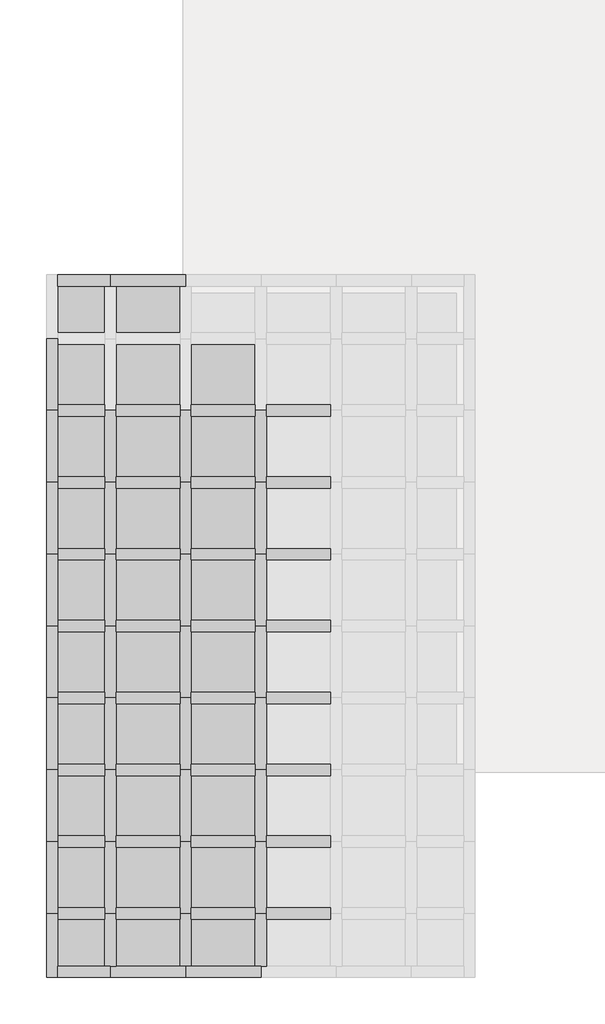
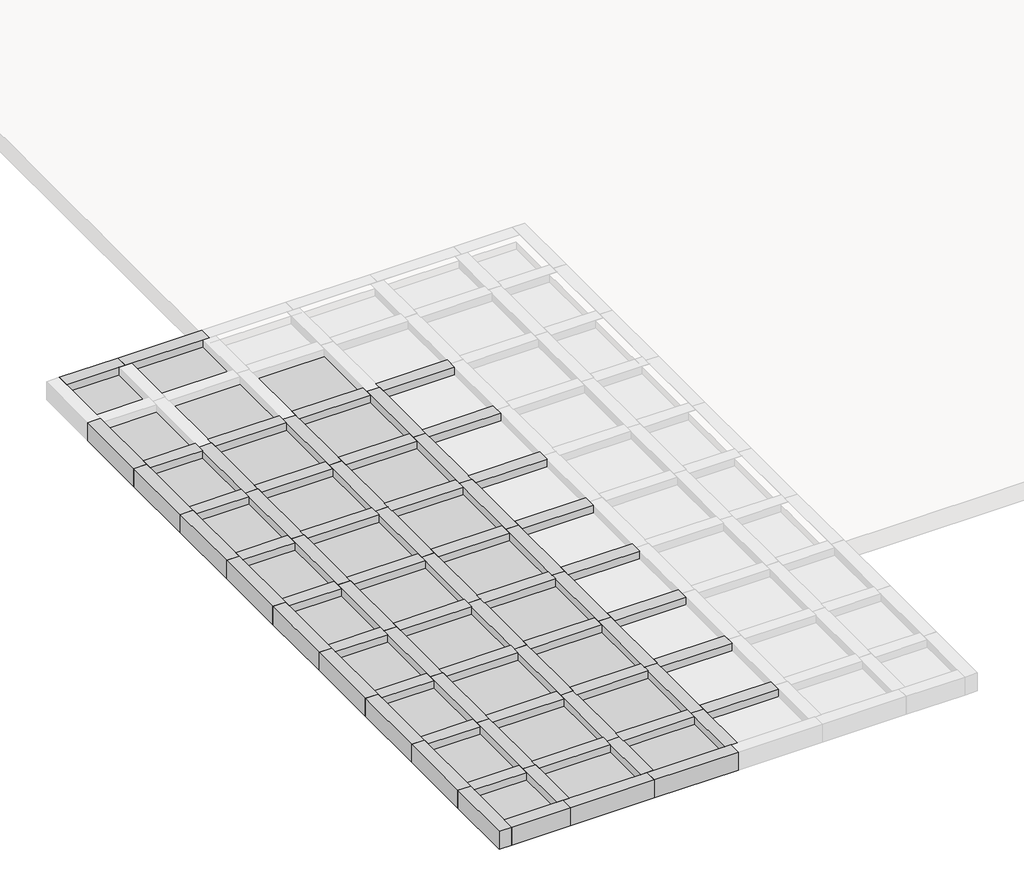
# One storey, part 1 of 2: 70 members, 29 plates.
"""IFC4 building model written with IfcOpenShell, lengths in millimetres."""

from ifc_helpers import new_model, si_unit, origin, place, context, project, spatial, transform, mapped, element, save
from components import member_100x150mm_5a4b8349, member_100x150mm_25bd5bcc, member_100x150mm_603da3bf, member_100x150mm_cb2e744a, member_100x150mm_679617a7, member_100x150mm_9d00d28b, member_100x150mm_3c09ebc3, member_100x150mm_210a08aa, plate_ec538d4f, plate_1a9b818e, plate_9b97b4d8, plate_b0de3d82

model = new_model("IFC4")

# Units and contexts
model_context = context("Model", 3, world=origin())
ifc_project = project(units=[si_unit("LENGTHUNIT", "METRE", prefix="MILLI")], contexts=[model_context])

# Site, building, storey
site = spatial("IfcSite", under=ifc_project)
building = spatial("IfcBuilding", under=site)
storey = spatial("IfcBuildingStorey", under=building, Name="标高3", Elevation=6010.0)

# Members
placement = place(None, origin())
member_100x150mm_shape = member_100x150mm_5a4b8349(model_context)
element("IfcMember", 1, ObjectType="矩形竖梃 : 100X150mm", at=placement, inside=storey, context=model_context, shape_type="MappedRepresentation", body=[
    mapped(member_100x150mm_shape, transform((-49837.1400177, -27027.7106127, 5935.0), x_axis=(0.0, 1.0, 0.0), y_axis=(0.0, 0.0, -1.0), z_axis=(-1.0, 0.0, 0.0))),
])
element("IfcMember", 2, ObjectType="矩形竖梃 : 100X150mm", at=placement, inside=storey, context=model_context, shape_type="MappedRepresentation", body=[
    mapped(member_100x150mm_shape, transform((-49837.1400177, -26397.7106127, 5935.0), x_axis=(0.0, 1.0, 0.0), y_axis=(0.0, 0.0, -1.0), z_axis=(-1.0, 0.0, 0.0))),
])
element("IfcMember", 3, ObjectType="矩形竖梃 : 100X150mm", at=placement, inside=storey, context=model_context, shape_type="MappedRepresentation", body=[
    mapped(member_100x150mm_shape, transform((-49837.1400177, -25767.7106127, 5935.0), x_axis=(0.0, 1.0, 0.0), y_axis=(0.0, 0.0, -1.0), z_axis=(-1.0, 0.0, 0.0))),
])
element("IfcMember", 4, ObjectType="矩形竖梃 : 100X150mm", at=placement, inside=storey, context=model_context, shape_type="MappedRepresentation", body=[
    mapped(member_100x150mm_shape, transform((-49837.1400177, -25137.7106127, 5935.0), x_axis=(0.0, 1.0, 0.0), y_axis=(0.0, 0.0, -1.0), z_axis=(-1.0, 0.0, 0.0))),
])
element("IfcMember", 5, ObjectType="矩形竖梃 : 100X150mm", at=placement, inside=storey, context=model_context, shape_type="MappedRepresentation", body=[
    mapped(member_100x150mm_shape, transform((-49837.1400177, -24507.7106127, 5935.0), x_axis=(0.0, 1.0, 0.0), y_axis=(0.0, 0.0, -1.0), z_axis=(-1.0, 0.0, 0.0))),
])
element("IfcMember", 6, ObjectType="矩形竖梃 : 100X150mm", at=placement, inside=storey, context=model_context, shape_type="MappedRepresentation", body=[
    mapped(member_100x150mm_shape, transform((-49837.1400177, -23877.7106127, 5935.0), x_axis=(0.0, 1.0, 0.0), y_axis=(0.0, 0.0, -1.0), z_axis=(-1.0, 0.0, 0.0))),
])
element("IfcMember", 7, ObjectType="矩形竖梃 : 100X150mm", at=placement, inside=storey, context=model_context, shape_type="MappedRepresentation", body=[
    mapped(member_100x150mm_shape, transform((-49837.1400177, -23247.7106127, 5935.0), x_axis=(0.0, 1.0, 0.0), y_axis=(0.0, 0.0, -1.0), z_axis=(-1.0, 0.0, 0.0))),
])
element("IfcMember", 8, ObjectType="矩形竖梃 : 100X150mm", at=placement, inside=storey, context=model_context, shape_type="MappedRepresentation", body=[
    mapped(member_100x150mm_shape, transform((-49837.1400177, -22617.7106127, 5935.0), x_axis=(0.0, 1.0, 0.0), y_axis=(0.0, 0.0, -1.0), z_axis=(-1.0, 0.0, 0.0))),
])
member_100x150mm_2_shape = member_100x150mm_25bd5bcc(model_context)
element("IfcMember", 9, ObjectType="矩形竖梃 : 100X150mm", at=placement, inside=storey, context=model_context, shape_type="MappedRepresentation", body=[
    mapped(member_100x150mm_2_shape, transform((-49327.1400177, -27027.7106127, 5935.0), x_axis=(0.0, 1.0, 0.0), y_axis=(0.0, 0.0, -1.0), z_axis=(-1.0, 0.0, 0.0))),
])
element("IfcMember", 10, ObjectType="矩形竖梃 : 100X150mm", at=placement, inside=storey, context=model_context, shape_type="MappedRepresentation", body=[
    mapped(member_100x150mm_2_shape, transform((-48667.1400177, -27027.7106127, 5935.0), x_axis=(0.0, 1.0, 0.0), y_axis=(0.0, 0.0, -1.0), z_axis=(-1.0, 0.0, 0.0))),
])
element("IfcMember", 11, ObjectType="矩形竖梃 : 100X150mm", at=placement, inside=storey, context=model_context, shape_type="MappedRepresentation", body=[
    mapped(member_100x150mm_2_shape, transform((-48007.1400177, -27027.7106127, 5935.0), x_axis=(0.0, 1.0, 0.0), y_axis=(0.0, 0.0, -1.0), z_axis=(-1.0, 0.0, 0.0))),
])
element("IfcMember", 12, ObjectType="矩形竖梃 : 100X150mm", at=placement, inside=storey, context=model_context, shape_type="MappedRepresentation", body=[
    mapped(member_100x150mm_2_shape, transform((-49327.1400177, -26397.7106127, 5935.0), x_axis=(0.0, 1.0, 0.0), y_axis=(0.0, 0.0, -1.0), z_axis=(-1.0, 0.0, 0.0))),
])
element("IfcMember", 13, ObjectType="矩形竖梃 : 100X150mm", at=placement, inside=storey, context=model_context, shape_type="MappedRepresentation", body=[
    mapped(member_100x150mm_2_shape, transform((-48667.1400177, -26397.7106127, 5935.0), x_axis=(0.0, 1.0, 0.0), y_axis=(0.0, 0.0, -1.0), z_axis=(-1.0, 0.0, 0.0))),
])
element("IfcMember", 14, ObjectType="矩形竖梃 : 100X150mm", at=placement, inside=storey, context=model_context, shape_type="MappedRepresentation", body=[
    mapped(member_100x150mm_2_shape, transform((-48007.1400177, -26397.7106127, 5935.0), x_axis=(0.0, 1.0, 0.0), y_axis=(0.0, 0.0, -1.0), z_axis=(-1.0, 0.0, 0.0))),
])
element("IfcMember", 15, ObjectType="矩形竖梃 : 100X150mm", at=placement, inside=storey, context=model_context, shape_type="MappedRepresentation", body=[
    mapped(member_100x150mm_2_shape, transform((-49327.1400177, -25767.7106127, 5935.0), x_axis=(0.0, 1.0, 0.0), y_axis=(0.0, 0.0, -1.0), z_axis=(-1.0, 0.0, 0.0))),
])
element("IfcMember", 16, ObjectType="矩形竖梃 : 100X150mm", at=placement, inside=storey, context=model_context, shape_type="MappedRepresentation", body=[
    mapped(member_100x150mm_2_shape, transform((-48667.1400177, -25767.7106127, 5935.0), x_axis=(0.0, 1.0, 0.0), y_axis=(0.0, 0.0, -1.0), z_axis=(-1.0, 0.0, 0.0))),
])
element("IfcMember", 17, ObjectType="矩形竖梃 : 100X150mm", at=placement, inside=storey, context=model_context, shape_type="MappedRepresentation", body=[
    mapped(member_100x150mm_2_shape, transform((-48007.1400177, -25767.7106127, 5935.0), x_axis=(0.0, 1.0, 0.0), y_axis=(0.0, 0.0, -1.0), z_axis=(-1.0, 0.0, 0.0))),
])
element("IfcMember", 18, ObjectType="矩形竖梃 : 100X150mm", at=placement, inside=storey, context=model_context, shape_type="MappedRepresentation", body=[
    mapped(member_100x150mm_2_shape, transform((-49327.1400177, -25137.7106127, 5935.0), x_axis=(0.0, 1.0, 0.0), y_axis=(0.0, 0.0, -1.0), z_axis=(-1.0, 0.0, 0.0))),
])
element("IfcMember", 19, ObjectType="矩形竖梃 : 100X150mm", at=placement, inside=storey, context=model_context, shape_type="MappedRepresentation", body=[
    mapped(member_100x150mm_2_shape, transform((-48667.1400177, -25137.7106127, 5935.0), x_axis=(0.0, 1.0, 0.0), y_axis=(0.0, 0.0, -1.0), z_axis=(-1.0, 0.0, 0.0))),
])
element("IfcMember", 20, ObjectType="矩形竖梃 : 100X150mm", at=placement, inside=storey, context=model_context, shape_type="MappedRepresentation", body=[
    mapped(member_100x150mm_2_shape, transform((-48007.1400177, -25137.7106127, 5935.0), x_axis=(0.0, 1.0, 0.0), y_axis=(0.0, 0.0, -1.0), z_axis=(-1.0, 0.0, 0.0))),
])
element("IfcMember", 21, ObjectType="矩形竖梃 : 100X150mm", at=placement, inside=storey, context=model_context, shape_type="MappedRepresentation", body=[
    mapped(member_100x150mm_2_shape, transform((-49327.1400177, -24507.7106127, 5935.0), x_axis=(0.0, 1.0, 0.0), y_axis=(0.0, 0.0, -1.0), z_axis=(-1.0, 0.0, 0.0))),
])
element("IfcMember", 22, ObjectType="矩形竖梃 : 100X150mm", at=placement, inside=storey, context=model_context, shape_type="MappedRepresentation", body=[
    mapped(member_100x150mm_2_shape, transform((-48667.1400177, -24507.7106127, 5935.0), x_axis=(0.0, 1.0, 0.0), y_axis=(0.0, 0.0, -1.0), z_axis=(-1.0, 0.0, 0.0))),
])
element("IfcMember", 23, ObjectType="矩形竖梃 : 100X150mm", at=placement, inside=storey, context=model_context, shape_type="MappedRepresentation", body=[
    mapped(member_100x150mm_2_shape, transform((-48007.1400177, -24507.7106127, 5935.0), x_axis=(0.0, 1.0, 0.0), y_axis=(0.0, 0.0, -1.0), z_axis=(-1.0, 0.0, 0.0))),
])
element("IfcMember", 24, ObjectType="矩形竖梃 : 100X150mm", at=placement, inside=storey, context=model_context, shape_type="MappedRepresentation", body=[
    mapped(member_100x150mm_2_shape, transform((-49327.1400177, -23877.7106127, 5935.0), x_axis=(0.0, 1.0, 0.0), y_axis=(0.0, 0.0, -1.0), z_axis=(-1.0, 0.0, 0.0))),
])
element("IfcMember", 25, ObjectType="矩形竖梃 : 100X150mm", at=placement, inside=storey, context=model_context, shape_type="MappedRepresentation", body=[
    mapped(member_100x150mm_2_shape, transform((-48667.1400177, -23877.7106127, 5935.0), x_axis=(0.0, 1.0, 0.0), y_axis=(0.0, 0.0, -1.0), z_axis=(-1.0, 0.0, 0.0))),
])
element("IfcMember", 26, ObjectType="矩形竖梃 : 100X150mm", at=placement, inside=storey, context=model_context, shape_type="MappedRepresentation", body=[
    mapped(member_100x150mm_2_shape, transform((-48007.1400177, -23877.7106127, 5935.0), x_axis=(0.0, 1.0, 0.0), y_axis=(0.0, 0.0, -1.0), z_axis=(-1.0, 0.0, 0.0))),
])
element("IfcMember", 27, ObjectType="矩形竖梃 : 100X150mm", at=placement, inside=storey, context=model_context, shape_type="MappedRepresentation", body=[
    mapped(member_100x150mm_2_shape, transform((-49327.1400177, -23247.7106127, 5935.0), x_axis=(0.0, 1.0, 0.0), y_axis=(0.0, 0.0, -1.0), z_axis=(-1.0, 0.0, 0.0))),
])
element("IfcMember", 28, ObjectType="矩形竖梃 : 100X150mm", at=placement, inside=storey, context=model_context, shape_type="MappedRepresentation", body=[
    mapped(member_100x150mm_2_shape, transform((-48667.1400177, -23247.7106127, 5935.0), x_axis=(0.0, 1.0, 0.0), y_axis=(0.0, 0.0, -1.0), z_axis=(-1.0, 0.0, 0.0))),
])
element("IfcMember", 29, ObjectType="矩形竖梃 : 100X150mm", at=placement, inside=storey, context=model_context, shape_type="MappedRepresentation", body=[
    mapped(member_100x150mm_2_shape, transform((-48007.1400177, -23247.7106127, 5935.0), x_axis=(0.0, 1.0, 0.0), y_axis=(0.0, 0.0, -1.0), z_axis=(-1.0, 0.0, 0.0))),
])
element("IfcMember", 30, ObjectType="矩形竖梃 : 100X150mm", at=placement, inside=storey, context=model_context, shape_type="MappedRepresentation", body=[
    mapped(member_100x150mm_2_shape, transform((-49327.1400177, -22617.7106127, 5935.0), x_axis=(0.0, 1.0, 0.0), y_axis=(0.0, 0.0, -1.0), z_axis=(-1.0, 0.0, 0.0))),
])
element("IfcMember", 31, ObjectType="矩形竖梃 : 100X150mm", at=placement, inside=storey, context=model_context, shape_type="MappedRepresentation", body=[
    mapped(member_100x150mm_2_shape, transform((-48667.1400177, -22617.7106127, 5935.0), x_axis=(0.0, 1.0, 0.0), y_axis=(0.0, 0.0, -1.0), z_axis=(-1.0, 0.0, 0.0))),
])
element("IfcMember", 32, ObjectType="矩形竖梃 : 100X150mm", at=placement, inside=storey, context=model_context, shape_type="MappedRepresentation", body=[
    mapped(member_100x150mm_2_shape, transform((-48007.1400177, -22617.7106127, 5935.0), x_axis=(0.0, 1.0, 0.0), y_axis=(0.0, 0.0, -1.0), z_axis=(-1.0, 0.0, 0.0))),
])
member_100x150mm_3_shape = member_100x150mm_603da3bf(model_context)
element("IfcMember", 33, ObjectType="矩形竖梃 : 100X150mm", at=placement, inside=storey, context=model_context, shape_type="MappedRepresentation", body=[
    mapped(member_100x150mm_3_shape, transform((-49377.1400177, -27027.7106127, 5935.0), x_axis=(1.0, 0.0, 0.0), y_axis=(0.0, 0.0, -1.0), z_axis=(0.0, 1.0, 0.0))),
])
element("IfcMember", 34, ObjectType="矩形竖梃 : 100X150mm", at=placement, inside=storey, context=model_context, shape_type="MappedRepresentation", body=[
    mapped(member_100x150mm_3_shape, transform((-48717.1400177, -27027.7106127, 5935.0), x_axis=(1.0, 0.0, 0.0), y_axis=(0.0, 0.0, -1.0), z_axis=(0.0, 1.0, 0.0))),
])
element("IfcMember", 35, ObjectType="矩形竖梃 : 100X150mm", at=placement, inside=storey, context=model_context, shape_type="MappedRepresentation", body=[
    mapped(member_100x150mm_3_shape, transform((-48057.1400177, -27027.7106127, 5935.0), x_axis=(1.0, 0.0, 0.0), y_axis=(0.0, 0.0, -1.0), z_axis=(0.0, 1.0, 0.0))),
])
member_100x150mm_4_shape = member_100x150mm_cb2e744a(model_context)
element("IfcMember", 36, ObjectType="矩形竖梃 : 100X150mm", at=placement, inside=storey, context=model_context, shape_type="MappedRepresentation", body=[
    mapped(member_100x150mm_4_shape, transform((-49377.1400177, -26397.7106127, 5935.0), x_axis=(1.0, 0.0, 0.0), y_axis=(0.0, 0.0, -1.0), z_axis=(0.0, 1.0, 0.0))),
])
element("IfcMember", 37, ObjectType="矩形竖梃 : 100X150mm", at=placement, inside=storey, context=model_context, shape_type="MappedRepresentation", body=[
    mapped(member_100x150mm_4_shape, transform((-48717.1400177, -26397.7106127, 5935.0), x_axis=(1.0, 0.0, 0.0), y_axis=(0.0, 0.0, -1.0), z_axis=(0.0, 1.0, 0.0))),
])
element("IfcMember", 38, ObjectType="矩形竖梃 : 100X150mm", at=placement, inside=storey, context=model_context, shape_type="MappedRepresentation", body=[
    mapped(member_100x150mm_4_shape, transform((-48057.1400177, -26397.7106127, 5935.0), x_axis=(1.0, 0.0, 0.0), y_axis=(0.0, 0.0, -1.0), z_axis=(0.0, 1.0, 0.0))),
])
element("IfcMember", 39, ObjectType="矩形竖梃 : 100X150mm", at=placement, inside=storey, context=model_context, shape_type="MappedRepresentation", body=[
    mapped(member_100x150mm_4_shape, transform((-49377.1400177, -25767.7106127, 5935.0), x_axis=(1.0, 0.0, 0.0), y_axis=(0.0, 0.0, -1.0), z_axis=(0.0, 1.0, 0.0))),
])
element("IfcMember", 40, ObjectType="矩形竖梃 : 100X150mm", at=placement, inside=storey, context=model_context, shape_type="MappedRepresentation", body=[
    mapped(member_100x150mm_4_shape, transform((-48717.1400177, -25767.7106127, 5935.0), x_axis=(1.0, 0.0, 0.0), y_axis=(0.0, 0.0, -1.0), z_axis=(0.0, 1.0, 0.0))),
])
element("IfcMember", 41, ObjectType="矩形竖梃 : 100X150mm", at=placement, inside=storey, context=model_context, shape_type="MappedRepresentation", body=[
    mapped(member_100x150mm_4_shape, transform((-48057.1400177, -25767.7106127, 5935.0), x_axis=(1.0, 0.0, 0.0), y_axis=(0.0, 0.0, -1.0), z_axis=(0.0, 1.0, 0.0))),
])
element("IfcMember", 42, ObjectType="矩形竖梃 : 100X150mm", at=placement, inside=storey, context=model_context, shape_type="MappedRepresentation", body=[
    mapped(member_100x150mm_4_shape, transform((-49377.1400177, -25137.7106127, 5935.0), x_axis=(1.0, 0.0, 0.0), y_axis=(0.0, 0.0, -1.0), z_axis=(0.0, 1.0, 0.0))),
])
element("IfcMember", 43, ObjectType="矩形竖梃 : 100X150mm", at=placement, inside=storey, context=model_context, shape_type="MappedRepresentation", body=[
    mapped(member_100x150mm_4_shape, transform((-48717.1400177, -25137.7106127, 5935.0), x_axis=(1.0, 0.0, 0.0), y_axis=(0.0, 0.0, -1.0), z_axis=(0.0, 1.0, 0.0))),
])
element("IfcMember", 44, ObjectType="矩形竖梃 : 100X150mm", at=placement, inside=storey, context=model_context, shape_type="MappedRepresentation", body=[
    mapped(member_100x150mm_4_shape, transform((-48057.1400177, -25137.7106127, 5935.0), x_axis=(1.0, 0.0, 0.0), y_axis=(0.0, 0.0, -1.0), z_axis=(0.0, 1.0, 0.0))),
])
element("IfcMember", 45, ObjectType="矩形竖梃 : 100X150mm", at=placement, inside=storey, context=model_context, shape_type="MappedRepresentation", body=[
    mapped(member_100x150mm_4_shape, transform((-49377.1400177, -24507.7106127, 5935.0), x_axis=(1.0, 0.0, 0.0), y_axis=(0.0, 0.0, -1.0), z_axis=(0.0, 1.0, 0.0))),
])
element("IfcMember", 46, ObjectType="矩形竖梃 : 100X150mm", at=placement, inside=storey, context=model_context, shape_type="MappedRepresentation", body=[
    mapped(member_100x150mm_4_shape, transform((-48717.1400177, -24507.7106127, 5935.0), x_axis=(1.0, 0.0, 0.0), y_axis=(0.0, 0.0, -1.0), z_axis=(0.0, 1.0, 0.0))),
])
element("IfcMember", 47, ObjectType="矩形竖梃 : 100X150mm", at=placement, inside=storey, context=model_context, shape_type="MappedRepresentation", body=[
    mapped(member_100x150mm_4_shape, transform((-48057.1400177, -24507.7106127, 5935.0), x_axis=(1.0, 0.0, 0.0), y_axis=(0.0, 0.0, -1.0), z_axis=(0.0, 1.0, 0.0))),
])
element("IfcMember", 48, ObjectType="矩形竖梃 : 100X150mm", at=placement, inside=storey, context=model_context, shape_type="MappedRepresentation", body=[
    mapped(member_100x150mm_4_shape, transform((-49377.1400177, -23877.7106127, 5935.0), x_axis=(1.0, 0.0, 0.0), y_axis=(0.0, 0.0, -1.0), z_axis=(0.0, 1.0, 0.0))),
])
element("IfcMember", 49, ObjectType="矩形竖梃 : 100X150mm", at=placement, inside=storey, context=model_context, shape_type="MappedRepresentation", body=[
    mapped(member_100x150mm_4_shape, transform((-48717.1400177, -23877.7106127, 5935.0), x_axis=(1.0, 0.0, 0.0), y_axis=(0.0, 0.0, -1.0), z_axis=(0.0, 1.0, 0.0))),
])
element("IfcMember", 50, ObjectType="矩形竖梃 : 100X150mm", at=placement, inside=storey, context=model_context, shape_type="MappedRepresentation", body=[
    mapped(member_100x150mm_4_shape, transform((-48057.1400177, -23877.7106127, 5935.0), x_axis=(1.0, 0.0, 0.0), y_axis=(0.0, 0.0, -1.0), z_axis=(0.0, 1.0, 0.0))),
])
element("IfcMember", 51, ObjectType="矩形竖梃 : 100X150mm", at=placement, inside=storey, context=model_context, shape_type="MappedRepresentation", body=[
    mapped(member_100x150mm_4_shape, transform((-49377.1400177, -23247.7106127, 5935.0), x_axis=(1.0, 0.0, 0.0), y_axis=(0.0, 0.0, -1.0), z_axis=(0.0, 1.0, 0.0))),
])
element("IfcMember", 52, ObjectType="矩形竖梃 : 100X150mm", at=placement, inside=storey, context=model_context, shape_type="MappedRepresentation", body=[
    mapped(member_100x150mm_4_shape, transform((-48717.1400177, -23247.7106127, 5935.0), x_axis=(1.0, 0.0, 0.0), y_axis=(0.0, 0.0, -1.0), z_axis=(0.0, 1.0, 0.0))),
])
element("IfcMember", 53, ObjectType="矩形竖梃 : 100X150mm", at=placement, inside=storey, context=model_context, shape_type="MappedRepresentation", body=[
    mapped(member_100x150mm_4_shape, transform((-48057.1400177, -23247.7106127, 5935.0), x_axis=(1.0, 0.0, 0.0), y_axis=(0.0, 0.0, -1.0), z_axis=(0.0, 1.0, 0.0))),
])
element("IfcMember", 54, ObjectType="矩形竖梃 : 100X150mm", at=placement, inside=storey, context=model_context, shape_type="MappedRepresentation", body=[
    mapped(member_100x150mm_4_shape, transform((-49377.1400177, -22617.7106127, 5935.0), x_axis=(1.0, 0.0, 0.0), y_axis=(0.0, 0.0, -1.0), z_axis=(0.0, 1.0, 0.0))),
])
element("IfcMember", 55, ObjectType="矩形竖梃 : 100X150mm", at=placement, inside=storey, context=model_context, shape_type="MappedRepresentation", body=[
    mapped(member_100x150mm_4_shape, transform((-48717.1400177, -22617.7106127, 5935.0), x_axis=(1.0, 0.0, 0.0), y_axis=(0.0, 0.0, -1.0), z_axis=(0.0, 1.0, 0.0))),
])
element("IfcMember", 56, ObjectType="矩形竖梃 : 100X150mm", at=placement, inside=storey, context=model_context, shape_type="MappedRepresentation", body=[
    mapped(member_100x150mm_4_shape, transform((-48057.1400177, -22617.7106127, 5935.0), x_axis=(1.0, 0.0, 0.0), y_axis=(0.0, 0.0, -1.0), z_axis=(0.0, 1.0, 0.0))),
])
member_100x150mm_5_shape = member_100x150mm_679617a7(model_context)
element("IfcMember", 57, ObjectType="矩形竖梃 : 100X150mm", at=placement, inside=storey, context=model_context, shape_type="MappedRepresentation", body=[
    mapped(member_100x150mm_5_shape, transform((-49837.1400177, -21427.7106127, 5935.0), x_axis=(0.0, 1.0, 0.0), y_axis=(0.0, 0.0, -1.0), z_axis=(-1.0, 0.0, 0.0))),
])
element("IfcMember", 58, ObjectType="矩形竖梃 : 100X150mm", at=placement, inside=storey, context=model_context, shape_type="MappedRepresentation", body=[
    mapped(member_100x150mm_5_shape, transform((-49377.1400177, -27587.7106127, 5935.0), x_axis=(0.0, -1.0, 0.0), y_axis=(0.0, 0.0, -1.0), z_axis=(1.0, 0.0, 0.0))),
])
member_100x150mm_6_shape = member_100x150mm_9d00d28b(model_context)
element("IfcMember", 59, ObjectType="矩形竖梃 : 100X150mm", at=placement, inside=storey, context=model_context, shape_type="MappedRepresentation", body=[
    mapped(member_100x150mm_6_shape, transform((-48717.1400177, -27587.7106127, 5935.0), x_axis=(0.0, -1.0, 0.0), y_axis=(0.0, 0.0, -1.0), z_axis=(1.0, 0.0, 0.0))),
])
element("IfcMember", 60, ObjectType="矩形竖梃 : 100X150mm", at=placement, inside=storey, context=model_context, shape_type="MappedRepresentation", body=[
    mapped(member_100x150mm_6_shape, transform((-48057.1400177, -27587.7106127, 5935.0), x_axis=(0.0, -1.0, 0.0), y_axis=(0.0, 0.0, -1.0), z_axis=(1.0, 0.0, 0.0))),
])
element("IfcMember", 61, ObjectType="矩形竖梃 : 100X150mm", at=placement, inside=storey, context=model_context, shape_type="MappedRepresentation", body=[
    mapped(member_100x150mm_6_shape, transform((-49377.1400177, -21427.7106127, 5935.0), x_axis=(0.0, 1.0, 0.0), y_axis=(0.0, 0.0, -1.0), z_axis=(-1.0, 0.0, 0.0))),
])
member_100x150mm_7_shape = member_100x150mm_3c09ebc3(model_context)
element("IfcMember", 62, ObjectType="矩形竖梃 : 100X150mm", at=placement, inside=storey, context=model_context, shape_type="MappedRepresentation", body=[
    mapped(member_100x150mm_7_shape, transform((-49937.1400177, -27587.7106127, 5935.0), x_axis=(-1.0, 0.0, 0.0), y_axis=(0.0, 0.0, -1.0), z_axis=(0.0, -1.0, 0.0))),
])
member_100x150mm_8_shape = member_100x150mm_210a08aa(model_context)
element("IfcMember", 63, ObjectType="矩形竖梃 : 100X150mm", at=placement, inside=storey, context=model_context, shape_type="MappedRepresentation", body=[
    mapped(member_100x150mm_8_shape, transform((-49937.1400177, -27027.7106127, 5935.0), x_axis=(-1.0, 0.0, 0.0), y_axis=(0.0, 0.0, -1.0), z_axis=(0.0, -1.0, 0.0))),
])
element("IfcMember", 64, ObjectType="矩形竖梃 : 100X150mm", at=placement, inside=storey, context=model_context, shape_type="MappedRepresentation", body=[
    mapped(member_100x150mm_8_shape, transform((-49937.1400177, -26397.7106127, 5935.0), x_axis=(-1.0, 0.0, 0.0), y_axis=(0.0, 0.0, -1.0), z_axis=(0.0, -1.0, 0.0))),
])
element("IfcMember", 65, ObjectType="矩形竖梃 : 100X150mm", at=placement, inside=storey, context=model_context, shape_type="MappedRepresentation", body=[
    mapped(member_100x150mm_8_shape, transform((-49937.1400177, -25767.7106127, 5935.0), x_axis=(-1.0, 0.0, 0.0), y_axis=(0.0, 0.0, -1.0), z_axis=(0.0, -1.0, 0.0))),
])
element("IfcMember", 66, ObjectType="矩形竖梃 : 100X150mm", at=placement, inside=storey, context=model_context, shape_type="MappedRepresentation", body=[
    mapped(member_100x150mm_8_shape, transform((-49937.1400177, -25137.7106127, 5935.0), x_axis=(-1.0, 0.0, 0.0), y_axis=(0.0, 0.0, -1.0), z_axis=(0.0, -1.0, 0.0))),
])
element("IfcMember", 67, ObjectType="矩形竖梃 : 100X150mm", at=placement, inside=storey, context=model_context, shape_type="MappedRepresentation", body=[
    mapped(member_100x150mm_8_shape, transform((-49937.1400177, -24507.7106127, 5935.0), x_axis=(-1.0, 0.0, 0.0), y_axis=(0.0, 0.0, -1.0), z_axis=(0.0, -1.0, 0.0))),
])
element("IfcMember", 68, ObjectType="矩形竖梃 : 100X150mm", at=placement, inside=storey, context=model_context, shape_type="MappedRepresentation", body=[
    mapped(member_100x150mm_8_shape, transform((-49937.1400177, -23877.7106127, 5935.0), x_axis=(-1.0, 0.0, 0.0), y_axis=(0.0, 0.0, -1.0), z_axis=(0.0, -1.0, 0.0))),
])
element("IfcMember", 69, ObjectType="矩形竖梃 : 100X150mm", at=placement, inside=storey, context=model_context, shape_type="MappedRepresentation", body=[
    mapped(member_100x150mm_8_shape, transform((-49937.1400177, -23247.7106127, 5935.0), x_axis=(-1.0, 0.0, 0.0), y_axis=(0.0, 0.0, -1.0), z_axis=(0.0, -1.0, 0.0))),
])
element("IfcMember", 70, ObjectType="矩形竖梃 : 100X150mm", at=placement, inside=storey, context=model_context, shape_type="MappedRepresentation", body=[
    mapped(member_100x150mm_8_shape, transform((-49937.1400177, -22617.7106127, 5935.0), x_axis=(-1.0, 0.0, 0.0), y_axis=(0.0, 0.0, -1.0), z_axis=(0.0, -1.0, 0.0))),
])

# Plates
plate_shape = plate_ec538d4f(model_context)
element("IfcPlate", 71, ObjectType="系统嵌板 : 玻璃", at=placement, inside=storey, context=model_context, shape_type="MappedRepresentation", body=[
    mapped(plate_shape, transform((-49632.1400177, -27487.7106127, 5935.0), x_axis=(1.0, 0.0, 0.0), y_axis=(0.0, 0.0, -1.0), z_axis=(0.0, 1.0, 0.0))),
])
element("IfcPlate", 72, ObjectType="系统嵌板 : 玻璃", at=placement, inside=storey, context=model_context, shape_type="MappedRepresentation", body=[
    mapped(plate_shape, transform((-49632.1400177, -21937.7106127, 5935.0), x_axis=(1.0, 0.0, 0.0), y_axis=(0.0, 0.0, -1.0), z_axis=(0.0, 1.0, 0.0))),
])
plate_2_shape = plate_1a9b818e(model_context)
element("IfcPlate", 73, ObjectType="系统嵌板 : 玻璃", at=placement, inside=storey, context=model_context, shape_type="MappedRepresentation", body=[
    mapped(plate_2_shape, transform((-49047.1400177, -27487.7106127, 5935.0), x_axis=(1.0, 0.0, 0.0), y_axis=(0.0, 0.0, -1.0), z_axis=(0.0, 1.0, 0.0))),
])
element("IfcPlate", 74, ObjectType="系统嵌板 : 玻璃", at=placement, inside=storey, context=model_context, shape_type="MappedRepresentation", body=[
    mapped(plate_2_shape, transform((-48387.1400177, -27487.7106127, 5935.0), x_axis=(1.0, 0.0, 0.0), y_axis=(0.0, 0.0, -1.0), z_axis=(0.0, 1.0, 0.0))),
])
element("IfcPlate", 75, ObjectType="系统嵌板 : 玻璃", at=placement, inside=storey, context=model_context, shape_type="MappedRepresentation", body=[
    mapped(plate_2_shape, transform((-49047.1400177, -21937.7106127, 5935.0), x_axis=(1.0, 0.0, 0.0), y_axis=(0.0, 0.0, -1.0), z_axis=(0.0, 1.0, 0.0))),
])
plate_3_shape = plate_9b97b4d8(model_context)
element("IfcPlate", 76, ObjectType="系统嵌板 : 玻璃", at=placement, inside=storey, context=model_context, shape_type="MappedRepresentation", body=[
    mapped(plate_3_shape, transform((-49632.1400177, -26977.7106127, 5935.0), x_axis=(1.0, 0.0, 0.0), y_axis=(0.0, 0.0, -1.0), z_axis=(0.0, 1.0, 0.0))),
])
element("IfcPlate", 77, ObjectType="系统嵌板 : 玻璃", at=placement, inside=storey, context=model_context, shape_type="MappedRepresentation", body=[
    mapped(plate_3_shape, transform((-49632.1400177, -26347.7106127, 5935.0), x_axis=(1.0, 0.0, 0.0), y_axis=(0.0, 0.0, -1.0), z_axis=(0.0, 1.0, 0.0))),
])
element("IfcPlate", 78, ObjectType="系统嵌板 : 玻璃", at=placement, inside=storey, context=model_context, shape_type="MappedRepresentation", body=[
    mapped(plate_3_shape, transform((-49632.1400177, -25717.7106127, 5935.0), x_axis=(1.0, 0.0, 0.0), y_axis=(0.0, 0.0, -1.0), z_axis=(0.0, 1.0, 0.0))),
])
element("IfcPlate", 79, ObjectType="系统嵌板 : 玻璃", at=placement, inside=storey, context=model_context, shape_type="MappedRepresentation", body=[
    mapped(plate_3_shape, transform((-49632.1400177, -25087.7106127, 5935.0), x_axis=(1.0, 0.0, 0.0), y_axis=(0.0, 0.0, -1.0), z_axis=(0.0, 1.0, 0.0))),
])
element("IfcPlate", 80, ObjectType="系统嵌板 : 玻璃", at=placement, inside=storey, context=model_context, shape_type="MappedRepresentation", body=[
    mapped(plate_3_shape, transform((-49632.1400177, -24457.7106127, 5935.0), x_axis=(1.0, 0.0, 0.0), y_axis=(0.0, 0.0, -1.0), z_axis=(0.0, 1.0, 0.0))),
])
element("IfcPlate", 81, ObjectType="系统嵌板 : 玻璃", at=placement, inside=storey, context=model_context, shape_type="MappedRepresentation", body=[
    mapped(plate_3_shape, transform((-49632.1400177, -23827.7106127, 5935.0), x_axis=(1.0, 0.0, 0.0), y_axis=(0.0, 0.0, -1.0), z_axis=(0.0, 1.0, 0.0))),
])
element("IfcPlate", 82, ObjectType="系统嵌板 : 玻璃", at=placement, inside=storey, context=model_context, shape_type="MappedRepresentation", body=[
    mapped(plate_3_shape, transform((-49632.1400177, -23197.7106127, 5935.0), x_axis=(1.0, 0.0, 0.0), y_axis=(0.0, 0.0, -1.0), z_axis=(0.0, 1.0, 0.0))),
])
element("IfcPlate", 83, ObjectType="系统嵌板 : 玻璃", at=placement, inside=storey, context=model_context, shape_type="MappedRepresentation", body=[
    mapped(plate_3_shape, transform((-49632.1400177, -22567.7106127, 5935.0), x_axis=(1.0, 0.0, 0.0), y_axis=(0.0, 0.0, -1.0), z_axis=(0.0, 1.0, 0.0))),
])
plate_4_shape = plate_b0de3d82(model_context)
element("IfcPlate", 84, ObjectType="系统嵌板 : 玻璃", at=placement, inside=storey, context=model_context, shape_type="MappedRepresentation", body=[
    mapped(plate_4_shape, transform((-48387.1400177, -26977.7106127, 5935.0), x_axis=(1.0, 0.0, 0.0), y_axis=(0.0, 0.0, -1.0), z_axis=(0.0, 1.0, 0.0))),
])
element("IfcPlate", 85, ObjectType="系统嵌板 : 玻璃", at=placement, inside=storey, context=model_context, shape_type="MappedRepresentation", body=[
    mapped(plate_4_shape, transform((-49047.1400177, -26977.7106127, 5935.0), x_axis=(1.0, 0.0, 0.0), y_axis=(0.0, 0.0, -1.0), z_axis=(0.0, 1.0, 0.0))),
])
element("IfcPlate", 86, ObjectType="系统嵌板 : 玻璃", at=placement, inside=storey, context=model_context, shape_type="MappedRepresentation", body=[
    mapped(plate_4_shape, transform((-48387.1400177, -26347.7106127, 5935.0), x_axis=(1.0, 0.0, 0.0), y_axis=(0.0, 0.0, -1.0), z_axis=(0.0, 1.0, 0.0))),
])
element("IfcPlate", 87, ObjectType="系统嵌板 : 玻璃", at=placement, inside=storey, context=model_context, shape_type="MappedRepresentation", body=[
    mapped(plate_4_shape, transform((-49047.1400177, -26347.7106127, 5935.0), x_axis=(1.0, 0.0, 0.0), y_axis=(0.0, 0.0, -1.0), z_axis=(0.0, 1.0, 0.0))),
])
element("IfcPlate", 88, ObjectType="系统嵌板 : 玻璃", at=placement, inside=storey, context=model_context, shape_type="MappedRepresentation", body=[
    mapped(plate_4_shape, transform((-48387.1400177, -25717.7106127, 5935.0), x_axis=(1.0, 0.0, 0.0), y_axis=(0.0, 0.0, -1.0), z_axis=(0.0, 1.0, 0.0))),
])
element("IfcPlate", 89, ObjectType="系统嵌板 : 玻璃", at=placement, inside=storey, context=model_context, shape_type="MappedRepresentation", body=[
    mapped(plate_4_shape, transform((-49047.1400177, -25717.7106127, 5935.0), x_axis=(1.0, 0.0, 0.0), y_axis=(0.0, 0.0, -1.0), z_axis=(0.0, 1.0, 0.0))),
])
element("IfcPlate", 90, ObjectType="系统嵌板 : 玻璃", at=placement, inside=storey, context=model_context, shape_type="MappedRepresentation", body=[
    mapped(plate_4_shape, transform((-48387.1400177, -25087.7106127, 5935.0), x_axis=(1.0, 0.0, 0.0), y_axis=(0.0, 0.0, -1.0), z_axis=(0.0, 1.0, 0.0))),
])
element("IfcPlate", 91, ObjectType="系统嵌板 : 玻璃", at=placement, inside=storey, context=model_context, shape_type="MappedRepresentation", body=[
    mapped(plate_4_shape, transform((-49047.1400177, -25087.7106127, 5935.0), x_axis=(1.0, 0.0, 0.0), y_axis=(0.0, 0.0, -1.0), z_axis=(0.0, 1.0, 0.0))),
])
element("IfcPlate", 92, ObjectType="系统嵌板 : 玻璃", at=placement, inside=storey, context=model_context, shape_type="MappedRepresentation", body=[
    mapped(plate_4_shape, transform((-48387.1400177, -24457.7106127, 5935.0), x_axis=(1.0, 0.0, 0.0), y_axis=(0.0, 0.0, -1.0), z_axis=(0.0, 1.0, 0.0))),
])
element("IfcPlate", 93, ObjectType="系统嵌板 : 玻璃", at=placement, inside=storey, context=model_context, shape_type="MappedRepresentation", body=[
    mapped(plate_4_shape, transform((-49047.1400177, -24457.7106127, 5935.0), x_axis=(1.0, 0.0, 0.0), y_axis=(0.0, 0.0, -1.0), z_axis=(0.0, 1.0, 0.0))),
])
element("IfcPlate", 94, ObjectType="系统嵌板 : 玻璃", at=placement, inside=storey, context=model_context, shape_type="MappedRepresentation", body=[
    mapped(plate_4_shape, transform((-48387.1400177, -23827.7106127, 5935.0), x_axis=(1.0, 0.0, 0.0), y_axis=(0.0, 0.0, -1.0), z_axis=(0.0, 1.0, 0.0))),
])
element("IfcPlate", 95, ObjectType="系统嵌板 : 玻璃", at=placement, inside=storey, context=model_context, shape_type="MappedRepresentation", body=[
    mapped(plate_4_shape, transform((-49047.1400177, -23827.7106127, 5935.0), x_axis=(1.0, 0.0, 0.0), y_axis=(0.0, 0.0, -1.0), z_axis=(0.0, 1.0, 0.0))),
])
element("IfcPlate", 96, ObjectType="系统嵌板 : 玻璃", at=placement, inside=storey, context=model_context, shape_type="MappedRepresentation", body=[
    mapped(plate_4_shape, transform((-48387.1400177, -23197.7106127, 5935.0), x_axis=(1.0, 0.0, 0.0), y_axis=(0.0, 0.0, -1.0), z_axis=(0.0, 1.0, 0.0))),
])
element("IfcPlate", 97, ObjectType="系统嵌板 : 玻璃", at=placement, inside=storey, context=model_context, shape_type="MappedRepresentation", body=[
    mapped(plate_4_shape, transform((-49047.1400177, -23197.7106127, 5935.0), x_axis=(1.0, 0.0, 0.0), y_axis=(0.0, 0.0, -1.0), z_axis=(0.0, 1.0, 0.0))),
])
element("IfcPlate", 98, ObjectType="系统嵌板 : 玻璃", at=placement, inside=storey, context=model_context, shape_type="MappedRepresentation", body=[
    mapped(plate_4_shape, transform((-48387.1400177, -22567.7106127, 5935.0), x_axis=(1.0, 0.0, 0.0), y_axis=(0.0, 0.0, -1.0), z_axis=(0.0, 1.0, 0.0))),
])
element("IfcPlate", 99, ObjectType="系统嵌板 : 玻璃", at=placement, inside=storey, context=model_context, shape_type="MappedRepresentation", body=[
    mapped(plate_4_shape, transform((-49047.1400177, -22567.7106127, 5935.0), x_axis=(1.0, 0.0, 0.0), y_axis=(0.0, 0.0, -1.0), z_axis=(0.0, 1.0, 0.0))),
])

save(model, "model.ifc")
